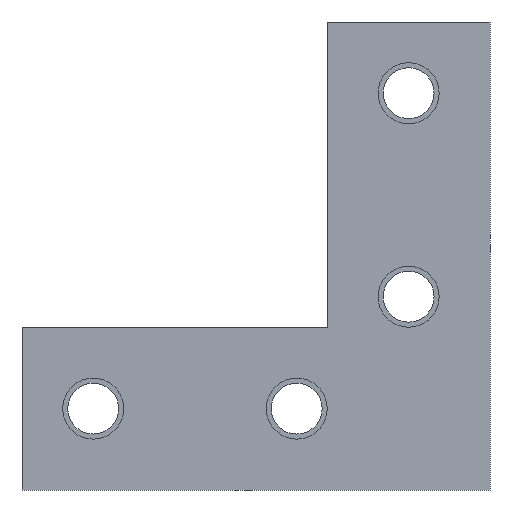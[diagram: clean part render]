
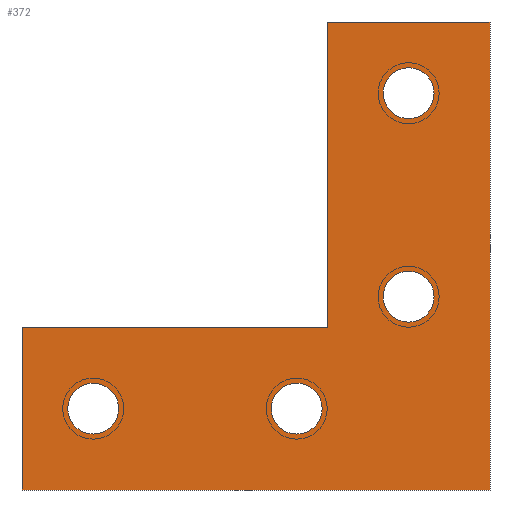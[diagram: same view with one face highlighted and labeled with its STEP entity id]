
A CAD part, front view. The second image highlights one B-rep face of the part: STEP entity #372.
In plain terms, the highlighted planar face has unit normal (0, -1, 0).
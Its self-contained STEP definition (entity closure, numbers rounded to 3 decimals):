
#1=CARTESIAN_POINT('',(-11.,0.,0.));
#2=DIRECTION('',(0.,-1.,0.));
#3=DIRECTION('',(0.,0.,-1.));
#4=AXIS2_PLACEMENT_3D('',#1,#2,#3);
#6=CARTESIAN_POINT('',(-11.,0.,0.));
#7=DIRECTION('',(0.,-1.,0.));
#8=DIRECTION('',(0.,0.,1.));
#9=AXIS2_PLACEMENT_3D('',#6,#7,#8);
#11=CARTESIAN_POINT('',(-31.,0.,0.));
#12=DIRECTION('',(0.,-1.,0.));
#13=DIRECTION('',(0.,0.,-1.));
#14=AXIS2_PLACEMENT_3D('',#11,#12,#13);
#16=CARTESIAN_POINT('',(-31.,0.,0.));
#17=DIRECTION('',(0.,-1.,0.));
#18=DIRECTION('',(0.,0.,1.));
#19=AXIS2_PLACEMENT_3D('',#16,#17,#18);
#21=CARTESIAN_POINT('',(0.,0.,31.));
#22=DIRECTION('',(0.,1.,0.));
#23=DIRECTION('',(1.,0.,0.));
#24=AXIS2_PLACEMENT_3D('',#21,#22,#23);
#26=CARTESIAN_POINT('',(0.,0.,31.));
#27=DIRECTION('',(0.,1.,0.));
#28=DIRECTION('',(-1.,0.,0.));
#29=AXIS2_PLACEMENT_3D('',#26,#27,#28);
#31=CARTESIAN_POINT('',(0.,0.,11.));
#32=DIRECTION('',(0.,1.,0.));
#33=DIRECTION('',(1.,0.,0.));
#34=AXIS2_PLACEMENT_3D('',#31,#32,#33);
#36=CARTESIAN_POINT('',(0.,0.,11.));
#37=DIRECTION('',(0.,1.,0.));
#38=DIRECTION('',(-1.,0.,0.));
#39=AXIS2_PLACEMENT_3D('',#36,#37,#38);
#41=DIRECTION('',(0.,0.,-1.));
#42=VECTOR('',#41,46.);
#43=CARTESIAN_POINT('',(8.,0.,38.));
#44=LINE('',#43,#42);
#45=DIRECTION('',(1.,0.,0.));
#46=VECTOR('',#45,46.);
#47=CARTESIAN_POINT('',(-38.,0.,-8.));
#48=LINE('',#47,#46);
#49=DIRECTION('',(0.,0.,-1.));
#50=VECTOR('',#49,16.);
#51=CARTESIAN_POINT('',(-38.,0.,8.));
#52=LINE('',#51,#50);
#53=DIRECTION('',(-1.,0.,0.));
#54=VECTOR('',#53,30.);
#55=CARTESIAN_POINT('',(-8.,0.,8.));
#56=LINE('',#55,#54);
#57=DIRECTION('',(0.,0.,1.));
#58=VECTOR('',#57,30.);
#59=CARTESIAN_POINT('',(-8.,0.,8.));
#60=LINE('',#59,#58);
#61=DIRECTION('',(1.,0.,0.));
#62=VECTOR('',#61,16.);
#63=CARTESIAN_POINT('',(-8.,0.,38.));
#64=LINE('',#63,#62);
#257=CARTESIAN_POINT('',(-8.,0.,38.));
#258=CARTESIAN_POINT('',(8.,0.,38.));
#259=VERTEX_POINT('',#257);
#260=VERTEX_POINT('',#258);
#269=CARTESIAN_POINT('',(2.5,0.,31.));
#270=CARTESIAN_POINT('',(-2.5,0.,31.));
#271=VERTEX_POINT('',#269);
#272=VERTEX_POINT('',#270);
#281=CARTESIAN_POINT('',(2.5,0.,11.));
#282=CARTESIAN_POINT('',(-2.5,0.,11.));
#283=VERTEX_POINT('',#281);
#284=VERTEX_POINT('',#282);
#289=CARTESIAN_POINT('',(-38.,0.,8.));
#290=CARTESIAN_POINT('',(-38.,0.,-8.));
#291=VERTEX_POINT('',#289);
#292=VERTEX_POINT('',#290);
#301=CARTESIAN_POINT('',(-31.,0.,-2.5));
#302=CARTESIAN_POINT('',(-31.,0.,2.5));
#303=VERTEX_POINT('',#301);
#304=VERTEX_POINT('',#302);
#313=CARTESIAN_POINT('',(-11.,0.,-2.5));
#314=CARTESIAN_POINT('',(-11.,0.,2.5));
#315=VERTEX_POINT('',#313);
#316=VERTEX_POINT('',#314);
#321=CARTESIAN_POINT('',(8.,0.,-8.));
#323=VERTEX_POINT('',#321);
#325=CARTESIAN_POINT('',(-8.,0.,8.));
#327=VERTEX_POINT('',#325);
#329=CARTESIAN_POINT('',(0.,0.,0.));
#330=DIRECTION('',(0.,1.,0.));
#331=DIRECTION('',(1.,0.,0.));
#332=AXIS2_PLACEMENT_3D('',#329,#330,#331);
#333=PLANE('',#332);
#335=ORIENTED_EDGE('',*,*,#334,.T.);
#337=ORIENTED_EDGE('',*,*,#336,.F.);
#339=ORIENTED_EDGE('',*,*,#338,.F.);
#341=ORIENTED_EDGE('',*,*,#340,.F.);
#343=ORIENTED_EDGE('',*,*,#342,.T.);
#345=ORIENTED_EDGE('',*,*,#344,.T.);
#346=EDGE_LOOP('',(#335,#337,#339,#341,#343,#345));
#347=FACE_OUTER_BOUND('',#346,.F.);
#349=ORIENTED_EDGE('',*,*,#348,.T.);
#351=ORIENTED_EDGE('',*,*,#350,.T.);
#352=EDGE_LOOP('',(#349,#351));
#353=FACE_BOUND('',#352,.F.);
#355=ORIENTED_EDGE('',*,*,#354,.T.);
#357=ORIENTED_EDGE('',*,*,#356,.T.);
#358=EDGE_LOOP('',(#355,#357));
#359=FACE_BOUND('',#358,.F.);
#361=ORIENTED_EDGE('',*,*,#360,.F.);
#363=ORIENTED_EDGE('',*,*,#362,.F.);
#364=EDGE_LOOP('',(#361,#363));
#365=FACE_BOUND('',#364,.F.);
#367=ORIENTED_EDGE('',*,*,#366,.F.);
#369=ORIENTED_EDGE('',*,*,#368,.F.);
#370=EDGE_LOOP('',(#367,#369));
#371=FACE_BOUND('',#370,.F.);
#372=ADVANCED_FACE('',(#347,#353,#359,#365,#371),#333,.F.);
#5=CIRCLE('',#4,2.5);
#10=CIRCLE('',#9,2.5);
#15=CIRCLE('',#14,2.5);
#20=CIRCLE('',#19,2.5);
#25=CIRCLE('',#24,2.5);
#30=CIRCLE('',#29,2.5);
#35=CIRCLE('',#34,2.5);
#40=CIRCLE('',#39,2.5);
#334=EDGE_CURVE('',#260,#323,#44,.T.);
#336=EDGE_CURVE('',#292,#323,#48,.T.);
#338=EDGE_CURVE('',#291,#292,#52,.T.);
#340=EDGE_CURVE('',#327,#291,#56,.T.);
#342=EDGE_CURVE('',#327,#259,#60,.T.);
#344=EDGE_CURVE('',#259,#260,#64,.T.);
#348=EDGE_CURVE('',#315,#316,#5,.T.);
#350=EDGE_CURVE('',#316,#315,#10,.T.);
#354=EDGE_CURVE('',#303,#304,#15,.T.);
#356=EDGE_CURVE('',#304,#303,#20,.T.);
#360=EDGE_CURVE('',#271,#272,#25,.T.);
#362=EDGE_CURVE('',#272,#271,#30,.T.);
#366=EDGE_CURVE('',#283,#284,#35,.T.);
#368=EDGE_CURVE('',#284,#283,#40,.T.);
